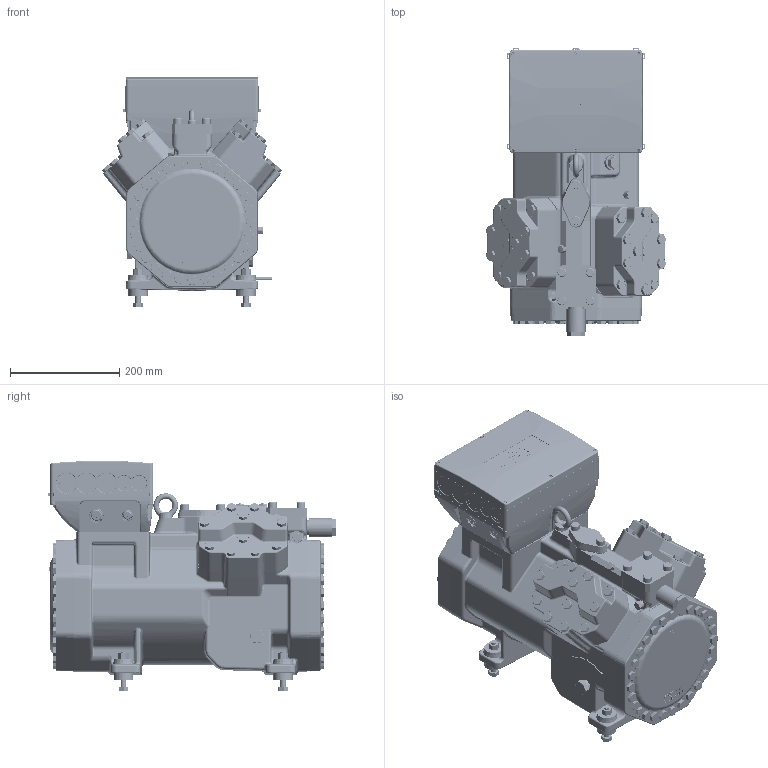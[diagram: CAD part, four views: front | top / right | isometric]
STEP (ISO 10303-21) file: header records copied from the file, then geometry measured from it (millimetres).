
FILE_DESCRIPTION(/* description */ (''),/* implementation_level */ '2;1');
FILE_NAME(/* name */ '4PTE-4MTE-4KTE-STANDARD.stp',/* time_stamp */ '2023-12-12T13:57:18+01:00',/* author */ (''),/* organization */ (''),/* preprocessor_version */ 'ST-DEVELOPER v19.3',/* originating_system */ 'SIEMENS PLM Software NX2212.3001',/* authorisation */ '');
FILE_SCHEMA (('AUTOMOTIVE_DESIGN { 1 0 10303 214 3 1 1 1 }'));
Products named in the file (11): ELECTRICAL-TERMINAL-BOX-C3; TERMINAL-BOX-CE3-CM-RC-02; HOUSING-COVER-CKHE2-CKHE3; CRANKCASE-HEATER-200-460V; CYLINDER-HEAD-CKH2-CKH3; BLIND-FLANGE-OVAL; BLIND-FLANGE-HP-CO2; DAMPERELEMENT-COMPL-KIT-CKH3; BEARING-COVER-CKHE3; BODY-CKHE3; 4PTE-4MTE-4KTE-STANDARD
Assembly tree (14 placements, depth 2):
  4PTE-4MTE-4KTE-STANDARD
    BODY-CKHE3
    BEARING-COVER-CKHE3
    DAMPERELEMENT-COMPL-KIT-CKH3  x4
    BLIND-FLANGE-HP-CO2
    BLIND-FLANGE-OVAL
    CYLINDER-HEAD-CKH2-CKH3  x2
    CRANKCASE-HEATER-200-460V
    HOUSING-COVER-CKHE2-CKHE3
    TERMINAL-BOX-CE3-CM-RC-02
    ELECTRICAL-TERMINAL-BOX-C3
Bounding box: 330.05 x 528.5 x 422.39 mm (x, y, z)
Volume: 33947163.7 mm3; surface area: 1367375.6 mm2
Topology: 14 solids, 31 shells, 9962 faces, 24244 edges, 14150 vertices
Faces by surface type: bspline 3225, plane 2587, cylinder 1945, cone 773, torus 701, sphere 555, extrusion 176
Full cylindrical faces by diameter (mm): 3 x4, 4 x6, 5.795 x4, 6 x3, 8 x1, 10 x28, 10.29 x1, 10.8 x1, 11 x3, 13.716 x2, 14.63 x30, 15.876 x10, 15.9 x28, 16 x6, 17 x2, 18 x1, 20 x31, 21 x4, 21.34 x1, 25 x4, 27 x2, 27.132 x1, 28 x1, 31 x3, 33 x1, 35 x1, 36 x8, 40 x1, 190 x1
Entity records: 288039 total; most frequent: CARTESIAN_POINT 113206, ORIENTED_EDGE 37074, DIRECTION 29234, EDGE_CURVE 18537, AXIS2_PLACEMENT_3D 11816, VERTEX_POINT 11464, EDGE_LOOP 8857, ADVANCED_FACE 7981
